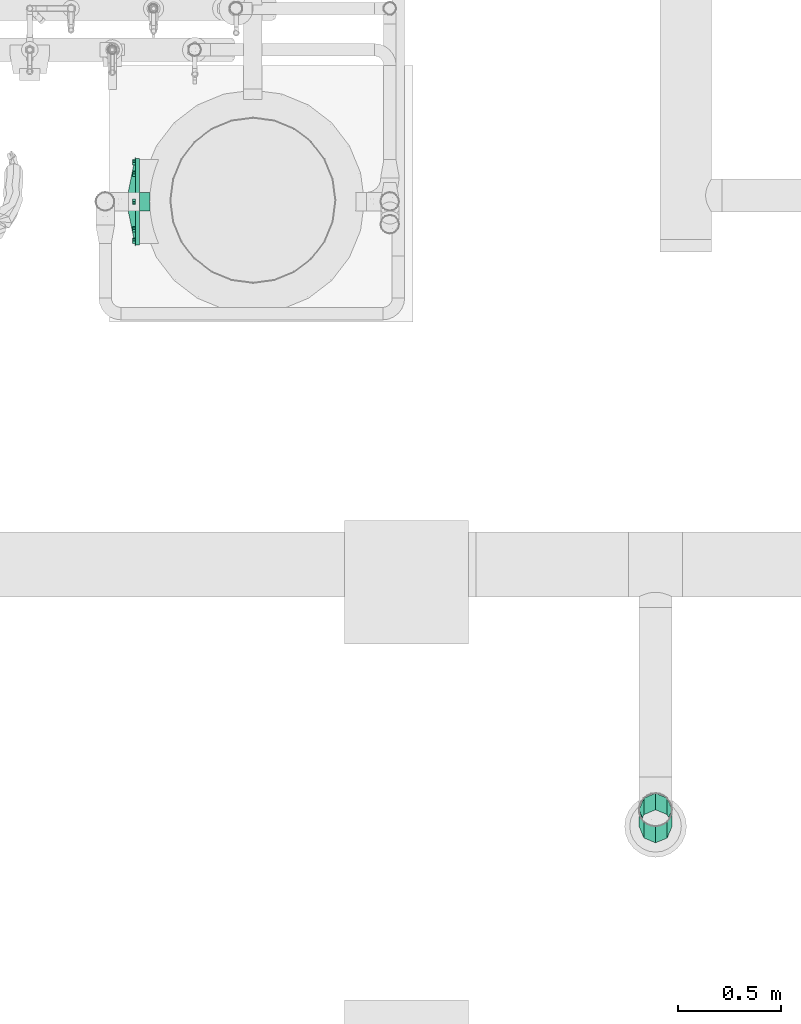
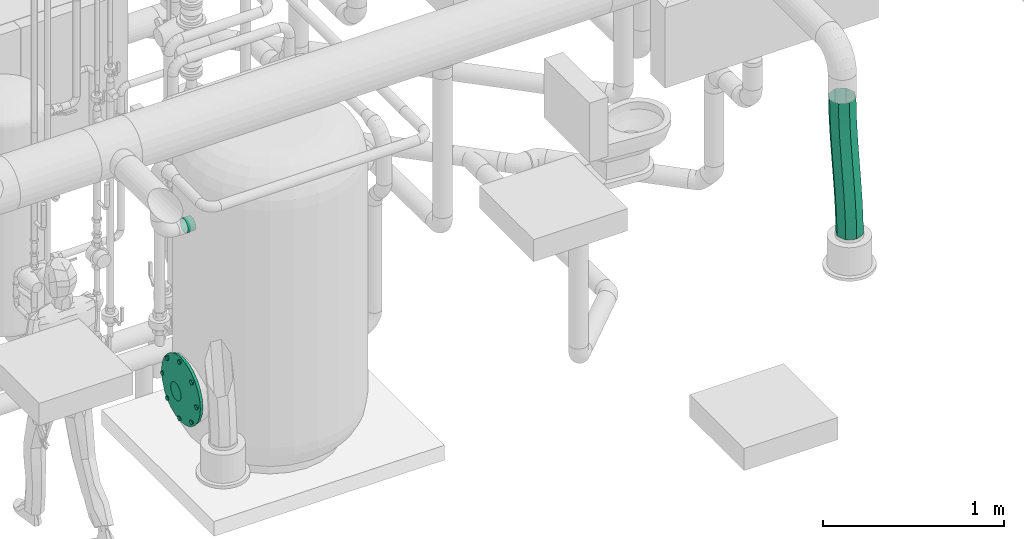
# One storey, part 259 of 374: 2 flow fittings, 2 flow segments.
"""IFC2X3 building model written with IfcOpenShell, lengths in metres."""

from ifc_helpers import new_model, si_unit, direction, origin, place, context, subcontext, project, spatial, open_shell, surface_model, source, transform, mapped, element, save


model = new_model("IFC2X3")

# Units and contexts
model_context = context("Model", 3, precision=1e-05, world=origin(), true_north=direction((-0.4480736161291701, 0.8939966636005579)))
body_context = subcontext(model_context, "Body", "Model", "MODEL_VIEW")
ifc_project = project(units=[si_unit("LENGTHUNIT", "METRE"), si_unit("AREAUNIT", "SQUARE_METRE"), si_unit("VOLUMEUNIT", "CUBIC_METRE"), si_unit("PLANEANGLEUNIT", "RADIAN"), si_unit("THERMODYNAMICTEMPERATUREUNIT", "KELVIN"), si_unit("MASSUNIT", "GRAM", prefix="KILO"), si_unit("TIMEUNIT", "SECOND")], contexts=[model_context])

# Site, building, storey
site_placement = place(None, origin())
site = spatial("IfcSite", under=ifc_project, at=site_placement, Name="Site 1", CompositionType="ELEMENT")
building_placement = place(site_placement, origin())
building = spatial("IfcBuilding", under=site, at=building_placement, Name="Undefined", CompositionType="ELEMENT")
storey_placement = place(building_placement, origin())
storey = spatial("IfcBuildingStorey", under=building, at=storey_placement, Name="Rez de chauss\x8ee", CompositionType="ELEMENT", Elevation=0.0)

# Flow segments
shared_shape_1 = source(origin(), body_context, "Body", "SurfaceModel", [
    surface_model("IfcFaceBasedSurfaceModel", [(0.09591138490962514, 3.552713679e-15, 0.0), (0.057778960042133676, 0.047905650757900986, 0.0), (0.0, 0.0, 0.0), (0.039908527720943, -0.046436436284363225, -1.0803137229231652e-06), (-0.055767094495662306, -0.049661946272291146, -0.001092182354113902), (-0.014403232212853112, -0.0948068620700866, -0.001066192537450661), (-0.10982705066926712, -0.10061373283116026, -0.003047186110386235), (-0.06736211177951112, -0.14472447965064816, -0.0029825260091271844), (-0.16253987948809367, -0.15244487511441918, -0.005638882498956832), (-0.11930632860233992, -0.19580249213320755, -0.005537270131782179), (-0.21426131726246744, -0.20475370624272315, -0.008645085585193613), (-0.1705741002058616, -0.2476541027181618, -0.00851761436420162), (-0.2653408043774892, -0.2571453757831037, -0.011847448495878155), (-0.2215036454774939, -0.2998925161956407, -0.01171074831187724), (-0.3161204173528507, -0.30923055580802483, -0.01503133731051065), (-0.2724331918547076, -0.35213094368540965, -0.014903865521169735), (-0.3669345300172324, -0.3606249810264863, -0.017985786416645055), (-0.32370096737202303, -0.4039825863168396, -0.017884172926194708), (-0.4181101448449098, -0.41094990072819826, -0.020503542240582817), (-0.37564519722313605, -0.4550606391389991, -0.020438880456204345), (-0.46996796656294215, -0.45983337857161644, -0.02238118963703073), (-0.4286041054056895, -0.5049782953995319, -0.02235519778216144), (-0.5228244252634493, -0.5069122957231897, -0.023419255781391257), (-0.4829159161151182, -0.5533487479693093, -0.02342033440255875), (-0.5770512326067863, -0.5518795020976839, -0.023421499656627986), (-0.5389188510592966, -0.599785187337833, -0.023421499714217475), (0.030535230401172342, 0.08155715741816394, -0.04329420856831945), (-0.02797941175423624, 0.03304294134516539, -0.04329376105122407), (-0.08434932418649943, -0.017153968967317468, -0.04439715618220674), (-0.13886536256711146, -0.06853412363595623, -0.046368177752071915), (-0.1918965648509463, -0.12067722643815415, -0.04897518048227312), (-0.24380592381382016, -0.1731754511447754, -0.05199209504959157), (-0.2949475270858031, -0.2256306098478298, -0.05519828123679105), (-0.3456650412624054, -0.27765231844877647, -0.058378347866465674), (-0.39629123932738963, -0.32885735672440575, -0.06132208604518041), (-0.4471484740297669, -0.37887030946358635, -0.06382453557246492), (-0.49855019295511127, -0.4273254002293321, -0.06568616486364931), (-0.5508037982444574, -0.4738693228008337, -0.0667130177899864), (-0.6042948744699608, -0.5182279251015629, -0.06671570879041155), (0.030139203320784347, 0.0812419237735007, -0.10452146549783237), (-0.027639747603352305, 0.03333628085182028, -0.10452146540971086), (-0.08340683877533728, -0.016325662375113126, -0.1056136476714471), (-0.13746679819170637, -0.06727745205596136, -0.1075686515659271), (-0.19017963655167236, -0.11910860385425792, -0.11016034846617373), (-0.2419010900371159, -0.17141745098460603, -0.11316655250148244), (-0.29298059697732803, -0.22380914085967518, -0.11636891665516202), (-0.3437602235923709, -0.27589433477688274, -0.11955280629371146), (-0.39457433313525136, -0.3272887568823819, -0.1225072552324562), (-0.4457499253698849, -0.37761365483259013, -0.12502501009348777), (-0.49760770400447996, -0.42649709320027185, -0.12690265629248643), (-0.5504640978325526, -0.4735759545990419, -0.1279407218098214), (-0.604690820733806, -0.5185430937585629, -0.12794296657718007), (0.05682286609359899, 0.047144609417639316, -0.1478156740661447), (0.000820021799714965, 0.0007081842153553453, -0.14781675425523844), (-0.05349173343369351, -0.04766223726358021, -0.14888186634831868), (-0.10645061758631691, -0.09757985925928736, -0.1507982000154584), (-0.15839484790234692, -0.1486578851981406, -0.15335294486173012), (-0.20966264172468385, -0.2005095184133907, -0.15633329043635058), (-0.26059221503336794, -0.2527479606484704, -0.1595264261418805), (-0.31152178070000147, -0.3049864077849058, -0.1627195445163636), (-0.36278955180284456, -0.35683804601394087, -0.16569985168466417), (-0.4147337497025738, -0.40791606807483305, -0.16825455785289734), (-0.4676925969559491, -0.4578336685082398, -0.17017087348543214), (-0.5220043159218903, -0.5062040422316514, -0.171236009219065), (-0.5780071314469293, -0.5526403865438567, -0.1712371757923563), (0.0949552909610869, -0.0007610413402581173, -0.1478156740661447), (0.04072854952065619, -0.04572825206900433, -0.14781783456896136), (-0.012127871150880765, -0.09280715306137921, -0.14885587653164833), (-0.06398567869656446, -0.1416906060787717, -0.15073353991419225), (-0.11516129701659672, -0.19201550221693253, -0.15325133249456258), (-0.16597542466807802, -0.2434099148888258, -0.1562058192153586), (-0.2167550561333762, -0.29549510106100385, -0.15938972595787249), (-0.2678345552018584, -0.3478867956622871, -0.1625920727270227), (-0.31955598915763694, -0.4001956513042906, -0.16559823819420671), (-0.37226880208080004, -0.45202680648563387, -0.16818989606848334), (-0.4263287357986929, -0.5029785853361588, -0.17014488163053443), (-0.4820958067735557, -0.5526404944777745, -0.17123708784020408), (-0.5398747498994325, -0.6005460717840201, -0.17123717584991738), (0.12219902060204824, -0.03441254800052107, -0.10452146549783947), (0.06870796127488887, -0.07877119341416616, -0.1045240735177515), (0.016454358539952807, -0.12531513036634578, -0.1055509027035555), (-0.034947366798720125, -0.17377021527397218, -0.10741254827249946), (-0.08580461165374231, -0.223783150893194, -0.10991503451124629), (-0.13643081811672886, -0.27498816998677, -0.11285880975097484), (-0.18714833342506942, -0.32700986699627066, -0.11603889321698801), (-0.23828993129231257, -0.37946503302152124, -0.11924506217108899), (-0.2901992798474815, -0.4319632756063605, -0.12226193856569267), (-0.34323047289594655, -0.4841063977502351, -0.12486890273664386), (-0.39774650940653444, -0.5354865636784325, -0.12683990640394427), (-0.45411643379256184, -0.5856834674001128, -0.12794332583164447), (-0.5126311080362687, -0.6341976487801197, -0.12794296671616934), (0.12259504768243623, -0.03409731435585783, -0.04329420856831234), (0.06836829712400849, -0.07906453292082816, -0.04329636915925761), (0.015511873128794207, -0.12614343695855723, -0.044334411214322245), (-0.03634593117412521, -0.1750268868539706, -0.046212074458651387), (-0.08752153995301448, -0.22535177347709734, -0.04872986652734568), (-0.13833565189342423, -0.27674617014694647, -0.05168435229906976), (-0.1891152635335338, -0.3288313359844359, -0.05486825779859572), (-0.24019474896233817, -0.3812230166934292, -0.05807060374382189), (-0.291916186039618, -0.433531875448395, -0.06107676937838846), (-0.344629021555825, -0.485363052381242, -0.0636684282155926), (-0.3986889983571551, -0.5363148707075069, -0.06562341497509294), (-0.4544561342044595, -0.5859768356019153, -0.06671562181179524), (-0.5122351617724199, -0.6338824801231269, -0.06671570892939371)], [open_shell([[[0, 1, 2]], [[2, 3, 0]], [[3, 2, 4]], [[4, 5, 3]], [[5, 4, 6]], [[6, 7, 5]], [[7, 6, 8]], [[8, 9, 7]], [[9, 8, 10]], [[10, 11, 9]], [[11, 10, 12]], [[12, 13, 11]], [[13, 12, 14]], [[14, 15, 13]], [[15, 14, 16]], [[16, 17, 15]], [[17, 16, 18]], [[18, 19, 17]], [[19, 18, 20]], [[20, 21, 19]], [[21, 20, 22]], [[22, 23, 21]], [[23, 22, 24]], [[24, 25, 23]], [[1, 26, 27]], [[27, 2, 1]], [[2, 27, 28]], [[28, 4, 2]], [[4, 28, 29]], [[29, 6, 4]], [[6, 29, 30]], [[30, 8, 6]], [[8, 30, 31]], [[31, 10, 8]], [[10, 31, 32]], [[32, 12, 10]], [[12, 32, 33]], [[33, 14, 12]], [[14, 33, 34]], [[34, 16, 14]], [[16, 34, 35]], [[35, 18, 16]], [[18, 35, 36]], [[36, 20, 18]], [[20, 36, 37]], [[37, 22, 20]], [[22, 37, 38]], [[38, 24, 22]], [[26, 39, 40]], [[40, 27, 26]], [[27, 40, 41]], [[41, 28, 27]], [[28, 41, 42]], [[42, 29, 28]], [[29, 42, 43]], [[43, 30, 29]], [[30, 43, 44]], [[44, 31, 30]], [[31, 44, 45]], [[45, 32, 31]], [[32, 45, 46]], [[46, 33, 32]], [[33, 46, 47]], [[47, 34, 33]], [[34, 47, 48]], [[48, 35, 34]], [[35, 48, 49]], [[49, 36, 35]], [[36, 49, 50]], [[50, 37, 36]], [[37, 50, 51]], [[51, 38, 37]], [[39, 52, 53]], [[53, 40, 39]], [[40, 53, 54]], [[54, 41, 40]], [[41, 54, 55]], [[55, 42, 41]], [[42, 55, 56]], [[56, 43, 42]], [[43, 56, 57]], [[57, 44, 43]], [[44, 57, 58]], [[58, 45, 44]], [[45, 58, 59]], [[59, 46, 45]], [[46, 59, 60]], [[60, 47, 46]], [[47, 60, 61]], [[61, 48, 47]], [[48, 61, 62]], [[62, 49, 48]], [[49, 62, 63]], [[63, 50, 49]], [[50, 63, 64]], [[64, 51, 50]], [[52, 65, 66]], [[66, 53, 52]], [[53, 66, 67]], [[67, 54, 53]], [[54, 67, 68]], [[68, 55, 54]], [[55, 68, 69]], [[69, 56, 55]], [[56, 69, 70]], [[70, 57, 56]], [[57, 70, 71]], [[71, 58, 57]], [[58, 71, 72]], [[72, 59, 58]], [[59, 72, 73]], [[73, 60, 59]], [[60, 73, 74]], [[74, 61, 60]], [[61, 74, 75]], [[75, 62, 61]], [[62, 75, 76]], [[76, 63, 62]], [[63, 76, 77]], [[77, 64, 63]], [[65, 78, 79]], [[79, 66, 65]], [[66, 79, 80]], [[80, 67, 66]], [[67, 80, 81]], [[81, 68, 67]], [[68, 81, 82]], [[82, 69, 68]], [[69, 82, 83]], [[83, 70, 69]], [[70, 83, 84]], [[84, 71, 70]], [[71, 84, 85]], [[85, 72, 71]], [[72, 85, 86]], [[86, 73, 72]], [[73, 86, 87]], [[87, 74, 73]], [[74, 87, 88]], [[88, 75, 74]], [[75, 88, 89]], [[89, 76, 75]], [[76, 89, 90]], [[90, 77, 76]], [[78, 91, 92]], [[92, 79, 78]], [[79, 92, 93]], [[93, 80, 79]], [[80, 93, 94]], [[94, 81, 80]], [[81, 94, 95]], [[95, 82, 81]], [[82, 95, 96]], [[96, 83, 82]], [[83, 96, 97]], [[97, 84, 83]], [[84, 97, 98]], [[98, 85, 84]], [[85, 98, 99]], [[99, 86, 85]], [[86, 99, 100]], [[100, 87, 86]], [[87, 100, 101]], [[101, 88, 87]], [[88, 101, 102]], [[102, 89, 88]], [[89, 102, 103]], [[103, 90, 89]], [[91, 0, 3]], [[3, 92, 91]], [[92, 3, 5]], [[5, 93, 92]], [[93, 5, 7]], [[7, 94, 93]], [[94, 7, 9]], [[9, 95, 94]], [[95, 9, 11]], [[11, 96, 95]], [[96, 11, 13]], [[13, 97, 96]], [[97, 13, 15]], [[15, 98, 97]], [[98, 15, 17]], [[17, 99, 98]], [[99, 17, 19]], [[19, 100, 99]], [[100, 19, 21]], [[21, 101, 100]], [[101, 21, 23]], [[23, 102, 101]], [[102, 23, 25]], [[25, 103, 102]]])]),
])
flow_segment_1_placement = place(storey_placement, origin())
element("IfcFlowSegment", 1, at=flow_segment_1_placement, inside=storey, Name="Tube flexible", ObjectType="Tube flexible", context=body_context, shape_type="MappedRepresentation", body=[
    mapped(shared_shape_1, transform((56.23343525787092, 7.089946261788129, 3.4049617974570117), x_axis=(-0.24430324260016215, -0.5728986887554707, 0.7823701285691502), y_axis=(0.2946538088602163, 0.7248106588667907, 0.6227588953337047), z_axis=(-0.9238479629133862, 0.38267035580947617, -0.008266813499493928))),
])
shared_shape_2 = source(origin(), body_context, "Body", "SurfaceModel", [
    surface_model("IfcFaceBasedSurfaceModel", [(0.00013237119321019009, 0.011603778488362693, 0.0), (0.0, 0.0, 0.0), (0.05013237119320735, 0.0, 0.0), (0.05013237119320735, 0.011603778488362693, 0.0), (-0.000361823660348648, -0.011208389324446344, -0.003003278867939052), (0.05013237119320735, -0.011208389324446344, -0.003003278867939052), (-0.0008565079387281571, -0.021257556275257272, -0.008805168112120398), (0.05013237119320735, -0.021257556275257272, -0.008805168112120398), (-0.0013516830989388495, -0.029462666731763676, -0.017010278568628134), (0.05013237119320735, -0.029462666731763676, -0.017010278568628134), (-0.0017144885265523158, -0.035264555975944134, -0.02705944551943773), (0.05013237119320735, -0.035264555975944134, -0.02705944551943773), (-0.0018473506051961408, -0.03826783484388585, -0.03826783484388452), (0.05013237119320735, -0.03826783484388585, -0.03826783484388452), (-0.0017144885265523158, -0.038267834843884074, -0.04987161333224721), (0.05013237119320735, -0.038267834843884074, -0.04987161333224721), (-0.0013516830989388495, -0.035264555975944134, -0.06108000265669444), (0.05013237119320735, -0.035264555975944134, -0.06108000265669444), (-0.0008565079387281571, -0.029462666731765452, -0.0711291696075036), (0.05013237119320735, -0.029462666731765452, -0.0711291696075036), (-0.000361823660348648, -0.021257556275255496, -0.07933428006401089), (0.05013237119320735, -0.021257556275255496, -0.07933428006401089), (0.0, -0.011208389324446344, -0.08513616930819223), (0.05013237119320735, -0.011208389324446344, -0.08513616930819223), (0.00013237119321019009, 0.0, -0.08813944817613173), (0.05013237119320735, 0.0, -0.08813944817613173), (0.0, 0.011603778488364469, -0.08813944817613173), (0.05013237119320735, 0.011603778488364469, -0.08813944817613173), (-0.000361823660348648, 0.022812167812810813, -0.08513616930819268), (0.05013237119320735, 0.022812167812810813, -0.08513616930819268), (-0.0008565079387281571, 0.03286133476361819, -0.07933428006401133), (0.05013237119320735, 0.03286133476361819, -0.07933428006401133), (-0.0013516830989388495, 0.04106644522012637, -0.0711291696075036), (0.05013237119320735, 0.04106644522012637, -0.0711291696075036), (-0.0017144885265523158, 0.0468683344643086, -0.06108000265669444), (0.05013237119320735, 0.0468683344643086, -0.06108000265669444), (-0.0018473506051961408, 0.04987161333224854, -0.04987161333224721), (0.05013237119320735, 0.04987161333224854, -0.04987161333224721), (-0.0017144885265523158, 0.04987161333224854, -0.03826783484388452), (0.05013237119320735, 0.04987161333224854, -0.03826783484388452), (-0.0013516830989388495, 0.04686833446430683, -0.02705944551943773), (0.05013237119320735, 0.04686833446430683, -0.02705944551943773), (-0.0008565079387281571, 0.04106644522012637, -0.017010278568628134), (0.05013237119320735, 0.04106644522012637, -0.017010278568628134), (-0.000361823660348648, 0.032861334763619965, -0.008805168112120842), (0.05013237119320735, 0.032861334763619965, -0.008805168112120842), (0.0, 0.022812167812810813, -0.003003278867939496), (0.05013237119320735, 0.022812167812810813, -0.003003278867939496)], [open_shell([[[0, 1, 2, 3]], [[1, 4, 5, 2]], [[4, 6, 7, 5]], [[6, 8, 9, 7]], [[8, 10, 11, 9]], [[10, 12, 13, 11]], [[12, 14, 15, 13]], [[14, 16, 17, 15]], [[16, 18, 19, 17]], [[18, 20, 21, 19]], [[20, 22, 23, 21]], [[22, 24, 25, 23]], [[24, 26, 27, 25]], [[26, 28, 29, 27]], [[28, 30, 31, 29]], [[30, 32, 33, 31]], [[32, 34, 35, 33]], [[34, 36, 37, 35]], [[36, 38, 39, 37]], [[38, 40, 41, 39]], [[40, 42, 43, 41]], [[42, 44, 45, 43]], [[44, 46, 47, 45]], [[46, 0, 3, 47]]])]),
])
flow_segment_2_placement = place(storey_placement, origin())
element("IfcFlowSegment", 2, at=flow_segment_2_placement, inside=storey, Name="Piquage sur circulaire 90°", ObjectType="Piquage sur circulaire 90°", context=body_context, shape_type="MappedRepresentation", body=[
    mapped(shared_shape_2, transform((53.83896293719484, 9.99382004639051, 1.7347198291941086), x_axis=(-1.0, 0.0, 0.0), y_axis=(7.266545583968e-12, -0.9914448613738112, 0.13052619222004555), z_axis=(0.0, 0.13052619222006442, 0.9914448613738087))),
])

# Flow fittings
shared_shape_3 = source(origin(), body_context, "Body", "SurfaceModel", [
    surface_model("IfcFaceBasedSurfaceModel", [(0.0, 0.0, 0.0), (0.013856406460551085, 0.0, -8.8817842e-16), (0.013856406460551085, 0.012999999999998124, -8.8817842e-16), (1.776356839e-15, 0.012999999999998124, -8.8817842e-16), (-0.006928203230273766, 0.0, 0.011999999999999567), (-0.006928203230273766, 0.012999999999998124, 0.011999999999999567), (0.0, 0.0, 0.023999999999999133), (0.0, 0.012999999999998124, 0.023999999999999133), (0.013856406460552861, 0.0, 0.02400000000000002), (0.013856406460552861, 0.012999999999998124, 0.02400000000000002), (0.020784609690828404, 0.0, 0.011999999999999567), (0.020784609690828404, 0.012999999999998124, 0.011999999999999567), (0.1441756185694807, 0.0, 0.01898108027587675), (0.15803202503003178, 0.0, 0.01898108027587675), (0.15803202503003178, 0.012999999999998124, 0.01898108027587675), (0.1441756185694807, 0.012999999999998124, 0.01898108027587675), (0.13724741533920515, 0.0, 0.030981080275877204), (0.13724741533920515, 0.012999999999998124, 0.030981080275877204), (0.1441756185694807, 0.0, 0.04298108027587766), (0.1441756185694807, 0.012999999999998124, 0.04298108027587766), (0.15803202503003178, 0.0, 0.04298108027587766), (0.15803202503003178, 0.012999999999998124, 0.04298108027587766), (0.16496022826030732, 0.0, 0.030981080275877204), (0.16496022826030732, 0.012999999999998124, 0.030981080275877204), (0.25954482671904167, 0.0, -0.06954482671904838), (0.27340123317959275, 0.0, -0.06954482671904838), (0.27340123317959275, 0.012999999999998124, -0.06954482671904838), (0.25954482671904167, 0.012999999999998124, -0.06954482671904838), (0.2526166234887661, 0.0, -0.057544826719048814), (0.2526166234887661, 0.012999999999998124, -0.057544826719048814), (0.25954482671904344, 0.0, -0.04554482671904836), (0.25954482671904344, 0.012999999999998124, -0.04554482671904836), (0.2734012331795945, 0.0, -0.04554482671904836), (0.2734012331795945, 0.012999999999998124, -0.04554482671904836), (0.28032943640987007, 0.0, -0.057544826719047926), (0.28032943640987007, 0.012999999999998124, -0.057544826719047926), (0.27852590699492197, 0.0, -0.2137204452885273), (0.2923823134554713, 0.0, -0.2137204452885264), (0.2923823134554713, 0.012999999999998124, -0.2137204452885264), (0.27852590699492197, 0.012999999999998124, -0.2137204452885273), (0.2715977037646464, 0.0, -0.20172044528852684), (0.2715977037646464, 0.012999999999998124, -0.20172044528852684), (0.27852590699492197, 0.0, -0.18972044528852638), (0.27852590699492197, 0.012999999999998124, -0.18972044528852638), (0.29238231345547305, 0.0, -0.18972044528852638), (0.29238231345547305, 0.012999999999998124, -0.18972044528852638), (0.2993105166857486, 0.0, -0.20172044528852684), (0.2993105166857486, 0.012999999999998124, -0.20172044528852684), (0.18999999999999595, 0.0, -0.32908965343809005), (0.20385640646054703, 0.0, -0.32908965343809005), (0.20385640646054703, 0.012999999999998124, -0.32908965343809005), (0.18999999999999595, 0.012999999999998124, -0.32908965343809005), (0.1830717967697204, 0.0, -0.3170896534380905), (0.1830717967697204, 0.012999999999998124, -0.3170896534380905), (0.18999999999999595, 0.0, -0.30508965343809), (0.18999999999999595, 0.012999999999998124, -0.30508965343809), (0.20385640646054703, 0.0, -0.30508965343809), (0.20385640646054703, 0.012999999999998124, -0.30508965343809), (0.21078460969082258, 0.0, -0.3170896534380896), (0.21078460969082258, 0.012999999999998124, -0.3170896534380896), (0.04582438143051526, 0.0, -0.34807073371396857), (0.059680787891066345, 0.0, -0.3480707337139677), (0.059680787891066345, 0.012999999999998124, -0.3480707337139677), (0.04582438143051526, 0.012999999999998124, -0.34807073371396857), (0.03889617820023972, 0.0, -0.3360707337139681), (0.03889617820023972, 0.012999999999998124, -0.3360707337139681), (0.045824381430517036, 0.0, -0.32407073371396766), (0.045824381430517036, 0.012999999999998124, -0.32407073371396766), (0.05968078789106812, 0.0, -0.32407073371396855), (0.05968078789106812, 0.012999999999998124, -0.32407073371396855), (0.06660899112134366, 0.0, -0.336070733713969), (0.06660899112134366, 0.012999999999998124, -0.336070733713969), (-0.06954482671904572, 0.0, -0.25954482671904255), (-0.05568842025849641, 0.0, -0.25954482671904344), (-0.05568842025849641, 0.012999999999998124, -0.25954482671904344), (-0.06954482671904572, 0.012999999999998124, -0.25954482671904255), (-0.07647302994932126, 0.0, -0.247544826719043), (-0.07647302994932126, 0.012999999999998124, -0.247544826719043), (-0.06954482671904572, 0.0, -0.23554482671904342), (-0.06954482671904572, 0.012999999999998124, -0.23554482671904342), (-0.05568842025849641, 0.0, -0.2355448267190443), (-0.05568842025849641, 0.012999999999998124, -0.2355448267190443), (-0.048760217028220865, 0.0, -0.24754482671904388), (-0.048760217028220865, 0.012999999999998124, -0.24754482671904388), (-0.08852590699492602, 0.0, -0.11536920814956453), (-0.07466950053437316, 0.0, -0.11536920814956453), (-0.07466950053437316, 0.012999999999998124, -0.11536920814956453), (-0.08852590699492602, 0.012999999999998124, -0.11536920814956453), (-0.09545411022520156, 0.0, -0.10336920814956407), (-0.09545411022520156, 0.012999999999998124, -0.10336920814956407), (-0.08852590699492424, 0.0, -0.09136920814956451), (-0.08852590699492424, 0.012999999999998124, -0.09136920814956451), (-0.07466950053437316, 0.0, -0.09136920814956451), (-0.07466950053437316, 0.012999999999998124, -0.09136920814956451), (-0.06774129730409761, 0.0, -0.10336920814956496), (-0.06774129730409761, 0.012999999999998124, -0.10336920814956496)], [open_shell([[[0, 1, 2, 3]], [[4, 0, 3, 5]], [[6, 4, 5, 7]], [[8, 6, 7, 9]], [[10, 8, 9, 11]], [[1, 10, 11, 2]], [[1, 0, 4]], [[1, 4, 6]], [[1, 6, 8]], [[1, 8, 10]], [[2, 5, 3]], [[2, 7, 5]], [[2, 9, 7]], [[2, 11, 9]], [[12, 13, 14, 15]], [[16, 12, 15, 17]], [[18, 16, 17, 19]], [[20, 18, 19, 21]], [[22, 20, 21, 23]], [[13, 22, 23, 14]], [[13, 12, 16]], [[13, 16, 18]], [[13, 18, 20]], [[13, 20, 22]], [[14, 17, 15]], [[14, 19, 17]], [[14, 21, 19]], [[14, 23, 21]], [[24, 25, 26, 27]], [[28, 24, 27, 29]], [[30, 28, 29, 31]], [[32, 30, 31, 33]], [[34, 32, 33, 35]], [[25, 34, 35, 26]], [[25, 24, 28]], [[25, 28, 30]], [[25, 30, 32]], [[25, 32, 34]], [[26, 29, 27]], [[26, 31, 29]], [[26, 33, 31]], [[26, 35, 33]], [[36, 37, 38, 39]], [[40, 36, 39, 41]], [[42, 40, 41, 43]], [[44, 42, 43, 45]], [[46, 44, 45, 47]], [[37, 46, 47, 38]], [[37, 36, 40]], [[37, 40, 42]], [[37, 42, 44]], [[37, 44, 46]], [[38, 41, 39]], [[38, 43, 41]], [[38, 45, 43]], [[38, 47, 45]], [[48, 49, 50, 51]], [[52, 48, 51, 53]], [[54, 52, 53, 55]], [[56, 54, 55, 57]], [[58, 56, 57, 59]], [[49, 58, 59, 50]], [[49, 48, 52]], [[49, 52, 54]], [[49, 54, 56]], [[49, 56, 58]], [[50, 53, 51]], [[50, 55, 53]], [[50, 57, 55]], [[50, 59, 57]], [[60, 61, 62, 63]], [[64, 60, 63, 65]], [[66, 64, 65, 67]], [[68, 66, 67, 69]], [[70, 68, 69, 71]], [[61, 70, 71, 62]], [[61, 60, 64]], [[61, 64, 66]], [[61, 66, 68]], [[61, 68, 70]], [[62, 65, 63]], [[62, 67, 65]], [[62, 69, 67]], [[62, 71, 69]], [[72, 73, 74, 75]], [[76, 72, 75, 77]], [[78, 76, 77, 79]], [[80, 78, 79, 81]], [[82, 80, 81, 83]], [[73, 82, 83, 74]], [[73, 72, 76]], [[73, 76, 78]], [[73, 78, 80]], [[73, 80, 82]], [[74, 77, 75]], [[74, 79, 77]], [[74, 81, 79]], [[74, 83, 81]], [[84, 85, 86, 87]], [[88, 84, 87, 89]], [[90, 88, 89, 91]], [[92, 90, 91, 93]], [[94, 92, 93, 95]], [[85, 94, 95, 86]], [[85, 84, 88]], [[85, 88, 90]], [[85, 90, 92]], [[85, 92, 94]], [[86, 89, 87]], [[86, 91, 89]], [[86, 93, 91]], [[86, 95, 93]]])]),
])
flow_fitting_1_placement = place(storey_placement, origin())
element("IfcFlowFitting", 3, at=flow_fitting_1_placement, inside=storey, Name="Fixation pour bride de raccord", ObjectType="Fixation pour bride de raccord", context=body_context, shape_type="MappedRepresentation", body=[
    mapped(shared_shape_3, transform((53.755830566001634, 9.994315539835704, 0.774856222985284), x_axis=(-5.55111512e-16, -0.866025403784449, -0.499999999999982), y_axis=(1.0, 0.0, 0.0), z_axis=(9.61481343e-16, -0.49999999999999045, 0.866025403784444))),
])
shared_shape_4 = source(origin(), body_context, "Body", "SurfaceModel", [
    surface_model("IfcFaceBasedSurfaceModel", [(0.1615509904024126, 0.0, 0.0), (0.16345974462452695, 0.014796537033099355, 0.0), (0.0071974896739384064, 0.05579446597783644, 7.105427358e-15), (0.0, 0.0, 0.0), (0.16905592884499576, 0.02860482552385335, -0.0007711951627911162), (0.028299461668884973, 0.10786246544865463, -0.0029080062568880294), (0.1779581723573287, 0.040483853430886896, -0.002261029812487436), (0.06186785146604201, 0.15265565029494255, -0.008525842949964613), (0.1895598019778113, 0.04962408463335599, -0.004367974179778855), (0.10561502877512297, 0.18712143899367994, -0.016470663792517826), (0.20307018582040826, 0.05540262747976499, -0.006948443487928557), (0.15655969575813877, 0.20891104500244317, -0.026201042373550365), (0.21756861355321, 0.057425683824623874, -0.009826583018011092), (0.21123005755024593, 0.2165395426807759, -0.03705386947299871), (0.23206704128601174, 0.05555538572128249, -0.012806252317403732), (0.26590041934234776, 0.2094870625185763, -0.04828954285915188), (0.24557742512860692, 0.049919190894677, -0.015684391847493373), (0.31684508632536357, 0.18823421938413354, -0.05914236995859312), (0.25717905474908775, 0.04090119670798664, -0.018264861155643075), (0.3605922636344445, 0.15422935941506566, -0.06887274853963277), (0.2660812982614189, 0.029115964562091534, -0.020371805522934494), (0.39416065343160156, 0.1097898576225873, -0.07681756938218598), (0.2716774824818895, 0.015366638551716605, -0.021861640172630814), (0.4152626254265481, 0.057944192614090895, -0.08243540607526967), (0.27358623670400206, 0.0005902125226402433, -0.022632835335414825), (0.422460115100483, 0.002225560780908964, -0.0853434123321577), (0.2716774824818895, -0.014206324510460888, -0.02263283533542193), (0.41526262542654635, -0.05356890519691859, -0.0853434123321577), (0.2660812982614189, -0.02801461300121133, -0.021861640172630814), (0.3941606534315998, -0.10563690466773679, -0.08243540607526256), (0.25717905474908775, -0.039893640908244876, -0.020371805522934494), (0.36059226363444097, -0.1504300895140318, -0.07681756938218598), (0.24557742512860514, -0.04903387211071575, -0.018264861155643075), (0.31684508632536, -0.1848958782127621, -0.06887274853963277), (0.23206704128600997, -0.054812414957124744, -0.015684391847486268), (0.2659004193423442, -0.20668548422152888, -0.05914236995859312), (0.21756861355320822, -0.056835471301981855, -0.012806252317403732), (0.2112300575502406, -0.21431398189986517, -0.048289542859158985), (0.20307018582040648, -0.05496517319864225, -0.009826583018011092), (0.15655969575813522, -0.207261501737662, -0.03705386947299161), (0.18955980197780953, -0.04932897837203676, -0.006948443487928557), (0.10561502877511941, -0.1860086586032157, -0.02620104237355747), (0.1779581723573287, -0.04031098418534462, -0.004367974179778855), (0.06186785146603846, -0.15200379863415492, -0.016470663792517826), (0.16905592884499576, -0.028525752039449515, -0.002261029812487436), (0.028299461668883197, -0.10756429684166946, -0.008525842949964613), (0.16345974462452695, -0.014776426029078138, -0.0007711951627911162), (0.00719748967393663, -0.05571863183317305, -0.002908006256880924), (0.2112300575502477, 0.2110414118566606, -0.037197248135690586), (0.2645051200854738, 0.20416892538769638, -0.0481461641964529), (0.260543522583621, 0.2046799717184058, -0.06774321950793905), (0.20726846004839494, 0.21155245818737, -0.05679430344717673), (0.31414957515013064, 0.1834584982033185, -0.05872200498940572), (0.3101879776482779, 0.18396954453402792, -0.07831906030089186), (0.35678023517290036, 0.15032151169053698, -0.06820404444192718), (0.3528186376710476, 0.1508325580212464, -0.08780109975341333), (0.3894918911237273, 0.10701619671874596, -0.07594609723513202), (0.3855302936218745, 0.10752724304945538, -0.09554315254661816), (0.4100552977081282, 0.056493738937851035, -0.08142055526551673), (0.40609370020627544, 0.057004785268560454, -0.10101761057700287), (0.41706909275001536, 0.0021971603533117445, -0.08425434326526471), (0.4131074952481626, 0.002708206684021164, -0.10385139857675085), (0.41005529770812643, -0.052173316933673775, -0.08425434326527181), (0.40609370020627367, -0.051662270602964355, -0.10385139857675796), (0.3894918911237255, -0.10291243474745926, -0.08142055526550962), (0.38553029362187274, -0.10240138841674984, -0.10101761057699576), (0.3567802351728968, -0.14656240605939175, -0.07594609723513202), (0.35281863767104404, -0.14605135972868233, -0.09554315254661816), (0.3141495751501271, -0.18014855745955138, -0.06820404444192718), (0.3101879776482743, -0.17963751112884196, -0.08780109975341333), (0.2645051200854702, -0.20138204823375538, -0.058722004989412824), (0.26054352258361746, -0.20087100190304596, -0.07831906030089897), (0.21123005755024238, -0.20881585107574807, -0.0481461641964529), (0.2072684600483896, -0.20830480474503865, -0.06774321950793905), (0.15795499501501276, -0.20194336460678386, -0.037197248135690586), (0.15399339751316, -0.20143231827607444, -0.05679430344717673), (0.10831053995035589, -0.18123293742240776, -0.026621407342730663), (0.10434894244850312, -0.18072189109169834, -0.04621846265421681), (0.06567987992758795, -0.14809595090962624, -0.0171393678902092), (0.06171828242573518, -0.14758490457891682, -0.036736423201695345), (0.0329682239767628, -0.10479063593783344, -0.009397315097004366), (0.029006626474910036, -0.10427958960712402, -0.02899437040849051), (0.012404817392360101, -0.05426817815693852, -0.0039228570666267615), (0.008443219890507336, -0.0537571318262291, -0.023519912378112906), (0.0053910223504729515, 2.8400427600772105e-05, -0.001089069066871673), (0.0014294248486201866, 0.0005394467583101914, -0.020686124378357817), (0.012404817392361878, 0.05439887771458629, -0.001089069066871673), (0.008443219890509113, 0.05490992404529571, -0.020686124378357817), (0.03296822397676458, 0.10513799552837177, -0.0039228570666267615), (0.029006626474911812, 0.1056490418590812, -0.023519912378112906), (0.0656798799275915, 0.1487879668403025, -0.009397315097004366), (0.061718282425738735, 0.1492990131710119, -0.02899437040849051), (0.10831053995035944, 0.18237411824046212, -0.0171393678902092), (0.10434894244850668, 0.18288516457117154, -0.036736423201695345), (0.1579549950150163, 0.2036076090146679, -0.026621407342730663), (0.15399339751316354, 0.20411865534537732, -0.04621846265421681), (0.21123005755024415, 0.0011127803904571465, -0.04267170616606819)], [open_shell([[[0, 1, 2, 3]], [[1, 4, 5, 2]], [[4, 6, 7, 5]], [[6, 8, 9, 7]], [[8, 10, 11, 9]], [[10, 12, 13, 11]], [[12, 14, 15, 13]], [[14, 16, 17, 15]], [[16, 18, 19, 17]], [[18, 20, 21, 19]], [[20, 22, 23, 21]], [[22, 24, 25, 23]], [[24, 26, 27, 25]], [[26, 28, 29, 27]], [[28, 30, 31, 29]], [[30, 32, 33, 31]], [[32, 34, 35, 33]], [[34, 36, 37, 35]], [[36, 38, 39, 37]], [[38, 40, 41, 39]], [[40, 42, 43, 41]], [[42, 44, 45, 43]], [[44, 46, 47, 45]], [[46, 0, 3, 47]], [[48, 49, 50, 51]], [[49, 52, 53, 50]], [[52, 54, 55, 53]], [[54, 56, 57, 55]], [[56, 58, 59, 57]], [[58, 60, 61, 59]], [[60, 62, 63, 61]], [[62, 64, 65, 63]], [[64, 66, 67, 65]], [[66, 68, 69, 67]], [[68, 70, 71, 69]], [[70, 72, 73, 71]], [[72, 74, 75, 73]], [[74, 76, 77, 75]], [[76, 78, 79, 77]], [[78, 80, 81, 79]], [[80, 82, 83, 81]], [[82, 84, 85, 83]], [[84, 86, 87, 85]], [[86, 88, 89, 87]], [[88, 90, 91, 89]], [[90, 92, 93, 91]], [[92, 94, 95, 93]], [[94, 48, 51, 95]], [[96, 49, 48]], [[96, 52, 49]], [[96, 54, 52]], [[96, 56, 54]], [[96, 58, 56]], [[96, 60, 58]], [[96, 62, 60]], [[96, 64, 62]], [[96, 66, 64]], [[96, 68, 66]], [[96, 70, 68]], [[96, 72, 70]], [[96, 74, 72]], [[96, 76, 74]], [[96, 78, 76]], [[96, 80, 78]], [[96, 82, 80]], [[96, 84, 82]], [[96, 86, 84]], [[96, 88, 86]], [[96, 90, 88]], [[96, 92, 90]], [[96, 94, 92]], [[96, 48, 94]]])]),
])
flow_fitting_2_placement = place(storey_placement, origin())
element("IfcFlowFitting", 4, at=flow_fitting_2_placement, inside=storey, Name="Bride", ObjectType="Bride", context=body_context, shape_type="MappedRepresentation", body=[
    mapped(shared_shape_4, transform((53.76883056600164, 9.982315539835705, 0.8072844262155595), x_axis=(-0.19807987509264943, -1.0995641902e-14, -0.9801858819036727), y_axis=(0.0255523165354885, -0.9996601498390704, -0.005163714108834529), z_axis=(-0.9798527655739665, -0.026068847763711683, 0.1980125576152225))),
])

save(model, "model.ifc")
